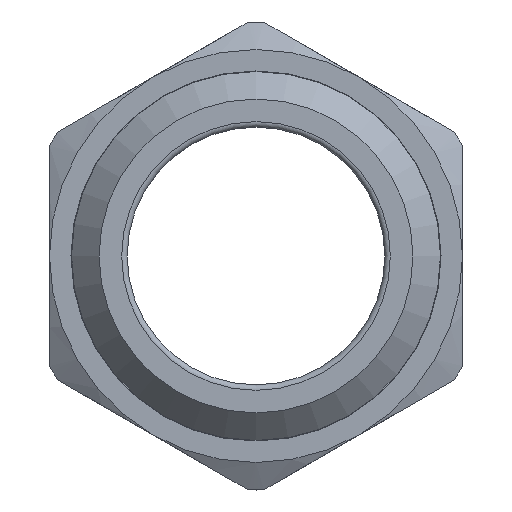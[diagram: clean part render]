
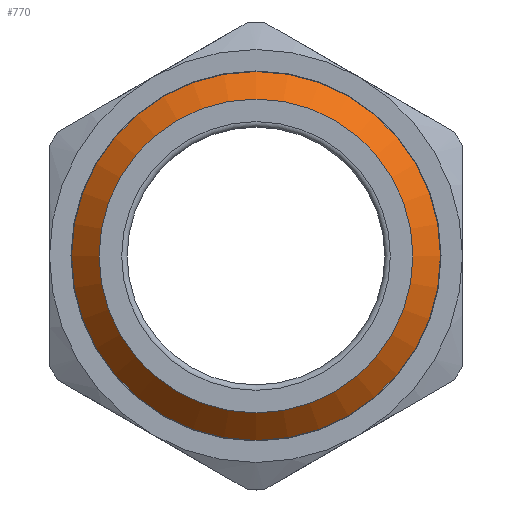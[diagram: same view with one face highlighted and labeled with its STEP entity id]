
A CAD part, front view. The second image highlights one B-rep face of the part: STEP entity #770.
In plain terms, the highlighted conical face has half-angle 45 degrees and reference radius 7.874 mm.
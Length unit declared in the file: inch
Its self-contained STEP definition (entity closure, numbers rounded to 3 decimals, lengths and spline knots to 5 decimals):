
#41=CONICAL_SURFACE('',#840,0.31,0.785);
#55=LINE('',#1240,#85);
#85=VECTOR('',#976,0.31);
#158=FACE_OUTER_BOUND('',#205,.T.);
#205=EDGE_LOOP('',(#543,#544,#545,#546,#547));
#261=CIRCLE('',#836,0.285);
#264=CIRCLE('',#841,0.335);
#265=CIRCLE('',#842,0.335);
#331=VERTEX_POINT('',#1230);
#334=VERTEX_POINT('',#1239);
#335=VERTEX_POINT('',#1241);
#414=EDGE_CURVE('',#331,#331,#261,.T.);
#418=EDGE_CURVE('',#331,#334,#55,.T.);
#419=EDGE_CURVE('',#334,#335,#264,.T.);
#420=EDGE_CURVE('',#335,#334,#265,.T.);
#543=ORIENTED_EDGE('',*,*,#414,.T.);
#544=ORIENTED_EDGE('',*,*,#418,.T.);
#545=ORIENTED_EDGE('',*,*,#419,.T.);
#546=ORIENTED_EDGE('',*,*,#420,.T.);
#547=ORIENTED_EDGE('',*,*,#418,.F.);
#770=ADVANCED_FACE('',(#158),#41,.T.);
#836=AXIS2_PLACEMENT_3D('',#1231,#965,#966);
#840=AXIS2_PLACEMENT_3D('',#1238,#974,#975);
#841=AXIS2_PLACEMENT_3D('',#1242,#977,#978);
#842=AXIS2_PLACEMENT_3D('',#1243,#979,#980);
#965=DIRECTION('center_axis',(0.,1.,0.));
#966=DIRECTION('ref_axis',(0.,0.,1.));
#974=DIRECTION('center_axis',(0.,1.,0.));
#975=DIRECTION('ref_axis',(0.,0.,1.));
#976=DIRECTION('',(0.,0.707,-0.707));
#977=DIRECTION('center_axis',(0.,-1.,0.));
#978=DIRECTION('ref_axis',(0.,0.,1.));
#979=DIRECTION('center_axis',(0.,-1.,0.));
#980=DIRECTION('ref_axis',(0.,0.,1.));
#1230=CARTESIAN_POINT('',(0.,-0.875,-0.285));
#1231=CARTESIAN_POINT('Origin',(0.,-0.875,0.));
#1238=CARTESIAN_POINT('Origin',(0.,-0.85,0.));
#1239=CARTESIAN_POINT('',(0.,-0.825,-0.335));
#1240=CARTESIAN_POINT('',(0.,-0.85,-0.31));
#1241=CARTESIAN_POINT('',(0.,-0.825,0.335));
#1242=CARTESIAN_POINT('Origin',(0.,-0.825,0.));
#1243=CARTESIAN_POINT('Origin',(0.,-0.825,0.));
